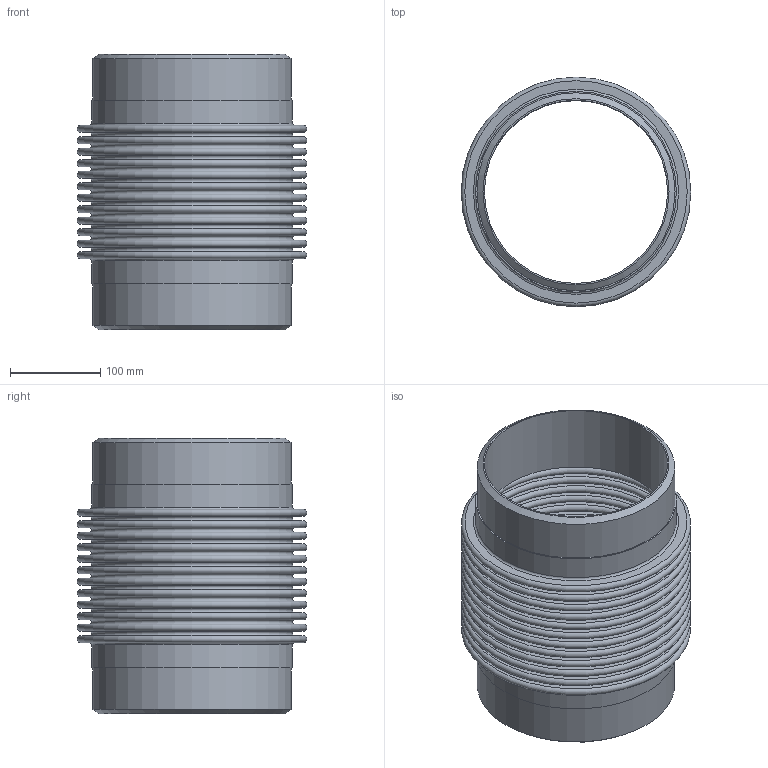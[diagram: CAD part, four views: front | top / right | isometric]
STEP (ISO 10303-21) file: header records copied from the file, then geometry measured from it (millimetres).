
FILE_DESCRIPTION(/* description */ ('EXPANSION JOINT,SINGLE, WELD ENDS,4 INCH NOMINAL'),/* implementation_level */ '2;1');
FILE_NAME(/* name */ 'ASSEMBLY US-8-12-300L.stp',/* time_stamp */ '2026-07-28T16:27:19-05:00',/* author */ ('jorgef'),/* organization */ (''),/* preprocessor_version */ 'ST-DEVELOPER v20.1',/* originating_system */ 'Autodesk Inventor 2026',/* authorisation */ '');
FILE_SCHEMA (('AUTOMOTIVE_DESIGN { 1 0 10303 214 3 1 1 }'));
Length unit declared in the file: inch
Products named in the file (3): ASSEMBLY  US-8-12-300L; STOCK BELLOW - US-8-12-300L; PIPE- US-8-12-300L
Assembly tree (3 placements, depth 2):
  ASSEMBLY  US-8-12-300L
    STOCK BELLOW - US-8-12-300L
    PIPE- US-8-12-300L  x2
Bounding box: 254 x 254 x 304.8 mm (x, y, z)
Volume: 1388725 mm3; surface area: 993495.1 mm2
Topology: 5 solids, 5 shells, 118 faces, 180 edges, 121 vertices
Faces by surface type: plane 58, torus 50, cylinder 8, cone 2
Full cylindrical faces by diameter (mm): 202.717 x2, 219.075 x4, 222.123 x2
Entity records: 2769 total; most frequent: DIRECTION 573, CARTESIAN_POINT 405, ORIENTED_EDGE 342, AXIS2_PLACEMENT_3D 283, EDGE_CURVE 171, EDGE_LOOP 169, CIRCLE 164, VERTEX_POINT 114
